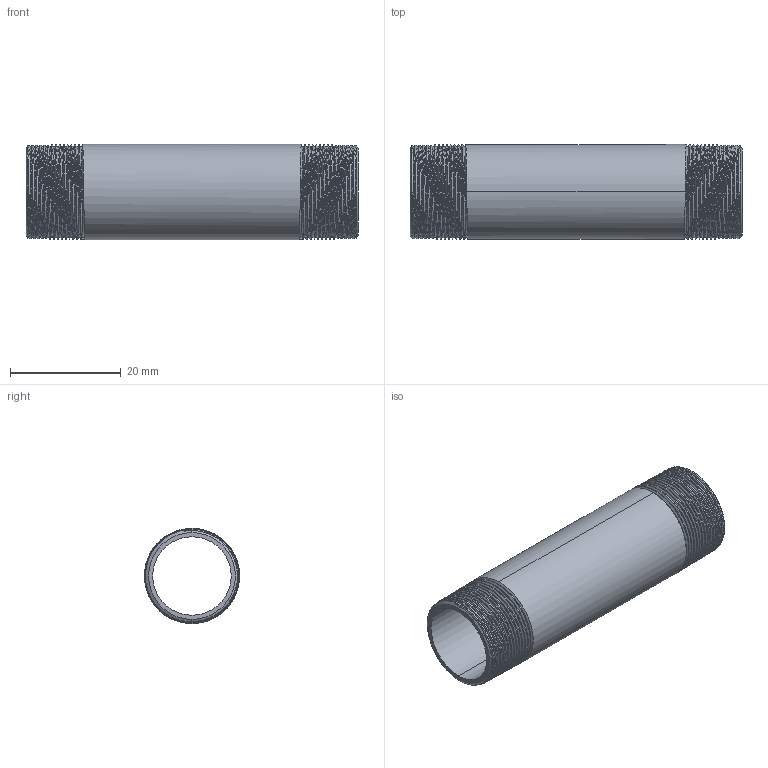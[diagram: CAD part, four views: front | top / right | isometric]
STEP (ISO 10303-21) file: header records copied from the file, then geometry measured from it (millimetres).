
FILE_DESCRIPTION (( 'STEP AP203' ), '1' );
FILE_NAME ('3D_R210_3-8x60_17185690.STEP', '2024-08-16T11:06:30', ( '' ), ( '' ), 'SwSTEP 2.0', 'SolidWorks 2024', '' );
FILE_SCHEMA (( 'CONFIG_CONTROL_DESIGN' ));
Length unit declared in the file: millimetre
Products named in the file (1): 3D_R210_3-8x60_17185690
Bounding box: 60 x 17.18 x 17.2 mm (x, y, z)
Volume: 4190.6 mm3; surface area: 6496.3 mm2
Topology: 1 solids, 1 shells, 76 faces, 218 edges, 144 vertices
Faces by surface type: cone 62, bspline 6, cylinder 4, plane 4
Entity records: 11224 total; most frequent: CARTESIAN_POINT 9454, ORIENTED_EDGE 436, DIRECTION 230, EDGE_CURVE 218, VERTEX_POINT 144, B_SPLINE_CURVE_WITH_KNOTS 132, AXIS2_PLACEMENT_3D 81, EDGE_LOOP 78
